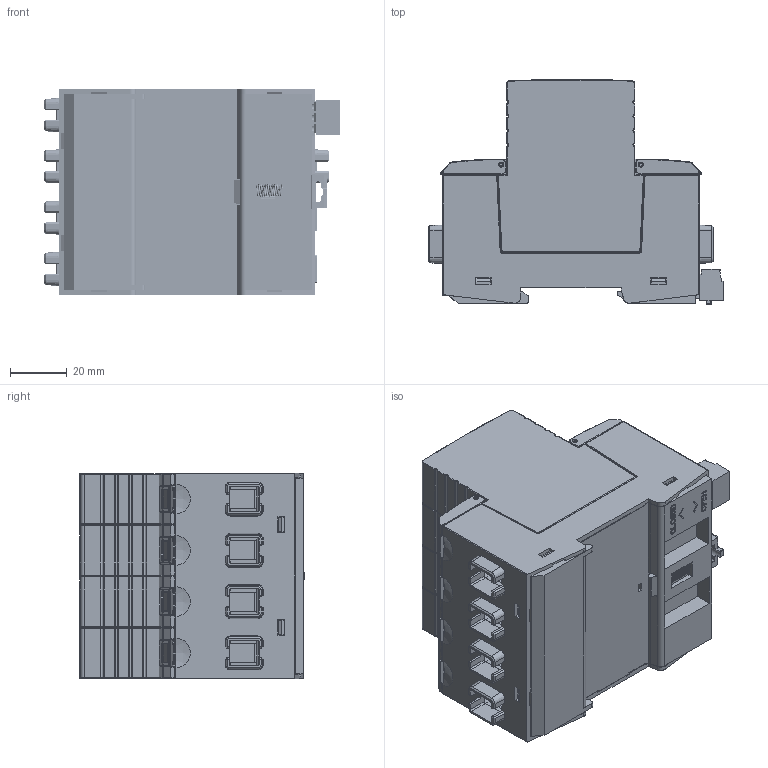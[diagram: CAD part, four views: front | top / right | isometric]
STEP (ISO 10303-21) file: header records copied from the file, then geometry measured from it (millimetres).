
FILE_DESCRIPTION(/* description */ ('Unknown'),/* implementation_level */ '2;1');
FILE_NAME(/* name */ 'SD25T680L405',/* time_stamp */ '2023-01-29T16:38:32+08:00',/* author */ ('Unknown'),/* organization */ ('Unknown'),/* preprocessor_version */ 'ST-DEVELOPER v16.7',/* originating_system */ 'Solid Edge',/* authorisation */ 'Unknown');
FILE_SCHEMA (('AUTOMOTIVE_DESIGN {1 0 10303 214 3 1 1}'));
Products named in the file (17): ASM1000000016; ASM1000000015_oa_0; PRT1000000076; PRT1000000067; PRT1000000120; PRT1000000117; PRT1000001242; ASM1000000110_oa_1; PRT1000000115; PRT1000000114; PRT1000000092; PRT1000001015; ASM1000000110_oa_2; PRT1000000096; ASM1000000110_oa_3; ASM1000000110_oa_4; PRT1000000099
Assembly tree (32 placements, depth 3):
  ASM1000000016
    ASM1000000015_oa_0
      PRT1000000076
      PRT1000000067
      PRT1000000120
      PRT1000000117
      PRT1000001242
    ASM1000000110_oa_1
      PRT1000000115
      PRT1000000114
      PRT1000000092  x2
      PRT1000001015
    ASM1000000110_oa_2
      PRT1000000115
      PRT1000000114
      PRT1000000096
      PRT1000000092  x2
      PRT1000001015
    ASM1000000110_oa_3
      PRT1000000115
      PRT1000000114
      PRT1000000092  x2
      PRT1000001015
    ASM1000000110_oa_4
      PRT1000000115
      PRT1000000114
      PRT1000000092  x2
      PRT1000000099
      PRT1000001015
Bounding box: 103.6 x 78.92 x 72 mm (x, y, z)
Volume: 118528.2 mm3; surface area: 204393.2 mm2
Topology: 27 solids, 27 shells, 7158 faces, 19220 edges, 12114 vertices
Faces by surface type: plane 4628, cylinder 1616, torus 360, sphere 318, bspline 165, cone 71
Full cylindrical faces by diameter (mm): 0.3 x4, 1.5 x16, 1.6 x3, 1.8 x20, 2.2 x3, 2.4 x4, 2.8 x3, 2.9 x3, 7.5 x8, 9.5 x5
Entity records: 151168 total; most frequent: CARTESIAN_POINT 33857, ORIENTED_EDGE 24900, DIRECTION 22743, EDGE_CURVE 12450, LINE 10161, VECTOR 10161, VERTEX_POINT 8063, AXIS2_PLACEMENT_3D 6291
